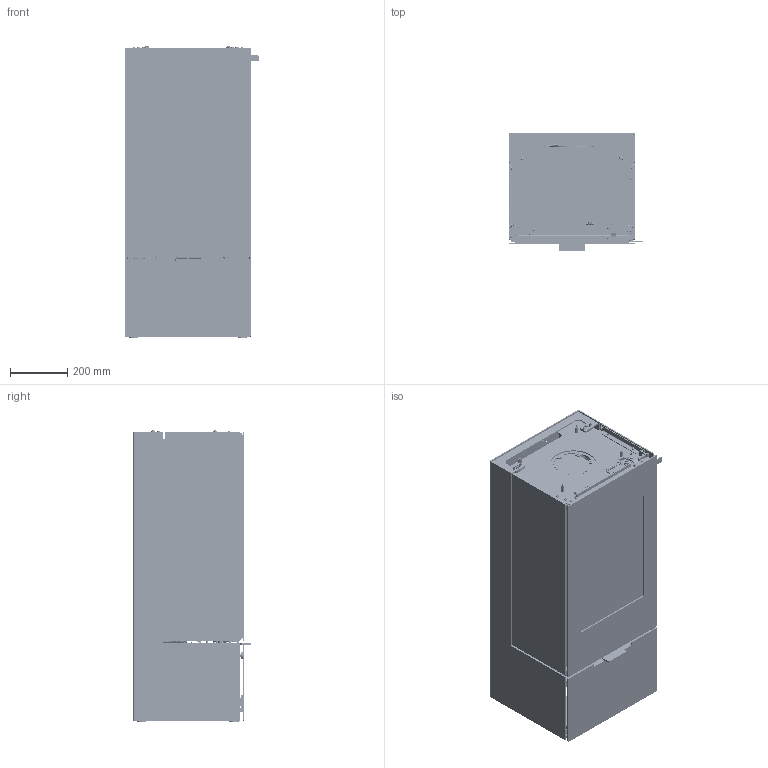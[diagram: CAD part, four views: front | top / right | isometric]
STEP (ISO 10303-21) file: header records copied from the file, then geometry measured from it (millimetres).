
FILE_DESCRIPTION(/* description */ (''),/* implementation_level */ '2;1');
FILE_NAME(/* name */ 'C:\Users\pch.RAIS\Desktop\Ann Charlotte\10-0161.stp',/* time_stamp */ '2018-09-28T10:52:23+02:00',/* author */ ('pch'),/* organization */ (''),/* preprocessor_version */ 'ST-DEVELOPER v16.13',/* originating_system */ 'Autodesk Inventor 2018',/* authorisation */ '');
FILE_SCHEMA (('AUTOMOTIVE_DESIGN { 1 0 10303 214 3 1 1 }'));
Products named in the file (212): 10-0161; 10-0131; 10-0111mon; 10-0111-0101sv; 10-0111-010101; 10-0111-010102; 10-0111-010103; 10-0111-010104; 2610409; 2610410; 10-0000-1201sv; 10-0000-120101; 10-0000-120103; 10-0000-120104; 10-0000-120105; 10-0000-120106; 10-0000-120107; 10-0000-120108; 10-0000-120109; 10-0000-120110; 10-0000-120111; 10-0000-120112; 10-0000-120113; 10-0000-120120; 10-0000-120102; 10-0000-120123; 10-0000-120121; 1711208; 10-34; 10-37; 10-0111-010105; 10-0000-120118; 10-0000-120119; 10-0101-010105; 1710912sv; 1710912; 4021219; 62-03SV; 0110-M6X12 SV.BOLT; 62-03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
Assembly tree (436 placements, depth 5):
  10-0161
    10-0131
      10-0111mon
        10-0111-0101sv
          10-0111-010101
          10-0111-010102
          10-0111-010103
          10-0111-010104
          2610409
          2610410
          0110-M5x8 CYL RÅ LH  x2
        10-0000-1201sv
          10-0000-120101
          10-0000-120103
          10-0000-120104
          10-0000-120105
          10-0000-120106
          10-0000-120107
          10-0000-120108  x2
          10-0000-120109
          10-0000-120110
          10-0000-120111
          10-0000-120112
          10-0000-120113
          10-0000-120120
          10-0000-120102
          10-0000-120123
          10-0000-120121
          1711208
          10-37  x4
          10-34  x2
        10-0111-010105  x2
        10-0000-120118
        10-0000-120119
        10-0101-010105
        1710912sv
          1710912
          4021219
        62-03SV
          0110-M6X12 SV.BOLT  x3
          62-03
        0005580
        3040117
        0110-M5X12 CYL RÅ  x16
        0110-m5 skive plan R  x6
        0110-M5 SKIVE PLAN  x2
        0110-M6X16 6KT FL  x2
        0110-M6 MØTRIK RÅ  x3
        0110-M6 SKIVE FJ
        0110-8X20/M6 PB  x2
        1010-8-14X16 Leje  x2
      10-0000-1003
        10-0000-1002sv
          10-0000-100201
          10-0000-100202
          10-0000-100208  x2
          10-0000-100204  x2
          10-0000-100205  x2
          10-0000-100206  x2
          0110-M5-Ø7,1X10SV.B.  x6
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Bounding box: 469 x 416.51 x 1022 mm (x, y, z)
Volume: 35409102.2 mm3; surface area: 11743315.4 mm2
Topology: 411 solids, 411 shells, 11683 faces, 28934 edges, 18229 vertices
Faces by surface type: plane 6354, cylinder 3661, bspline 646, cone 459, torus 367, sphere 196
Full cylindrical faces by diameter (mm): 1.2 x6, 1.5 x6, 1.75 x3, 2 x4, 2.34 x2, 2.7 x2, 2.89 x2, 3 x1, 3.2 x1, 3.3 x2, 3.5 x27, 4 x5, 4.134 x4, 4.2 x116, 4.3 x6, 4.773 x2, 4.917 x3, 4.95 x5, 4.99 x4, 5 x184, 5.1 x25, 5.2 x19, 5.3 x17, 5.5 x18, 5.8 x2, 5.9 x4, 6 x57, 6.1 x4, 6.2 x8, 6.4 x4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
Entity records: 278516 total; most frequent: CARTESIAN_POINT 82726, DIRECTION 39534, ORIENTED_EDGE 37926, EDGE_CURVE 18963, AXIS2_PLACEMENT_3D 13638, VERTEX_POINT 12414, LINE 12258, VECTOR 12258
